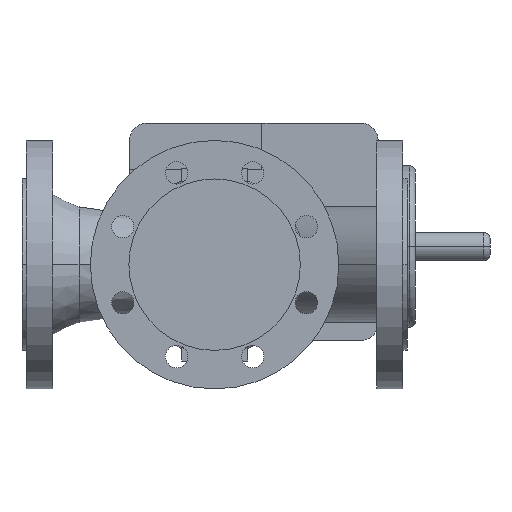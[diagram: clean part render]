
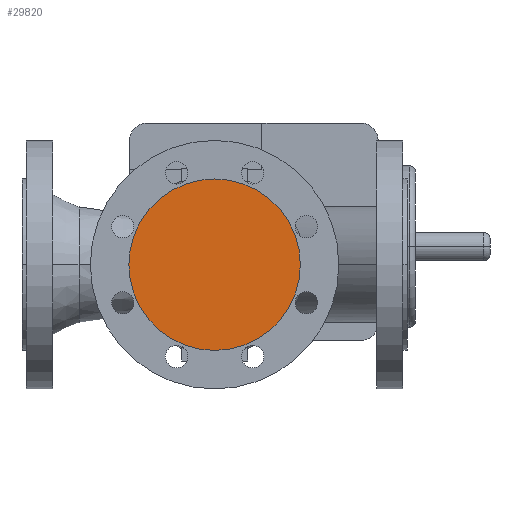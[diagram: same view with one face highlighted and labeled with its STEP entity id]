
A CAD part, front view. The second image highlights one B-rep face of the part: STEP entity #29820.
In plain terms, the highlighted planar face has unit normal (0, -1, 0).
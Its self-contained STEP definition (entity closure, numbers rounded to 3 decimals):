
#4800=CARTESIAN_POINT('',(86.,-130.,0.));
#4810=VERTEX_POINT('',#4800);
#4970=CARTESIAN_POINT('',(224.,-130.,0.));
#4980=VERTEX_POINT('',#4970);
#5010=CARTESIAN_POINT('',(155.,-130.,0.));
#5020=DIRECTION('',(0.,1.,0.));
#5030=DIRECTION('',(1.,0.,0.));
#5040=AXIS2_PLACEMENT_3D('',#5010,#5020,#5030);
#5050=CIRCLE('',#5040,69.);
#5060=EDGE_CURVE('',#4810,#4980,#5050,.T.);
#29720=CARTESIAN_POINT('',(189.5,-130.,0.));
#29730=DIRECTION('',(0.,-1.,0.));
#29740=DIRECTION('',(-1.,0.,0.));
#29750=AXIS2_PLACEMENT_3D('',#29720,#29730,#29740);
#29760=PLANE('',#29750);
#29770=EDGE_CURVE('',#4980,#4810,#5050,.T.);
#29780=ORIENTED_EDGE('',*,*,#29770,.F.);
#29790=ORIENTED_EDGE('',*,*,#5060,.F.);
#29800=EDGE_LOOP('',(#29790,#29780));
#29810=FACE_OUTER_BOUND('',#29800,.T.);
#29820=ADVANCED_FACE('',(#29810),#29760,.T.);
